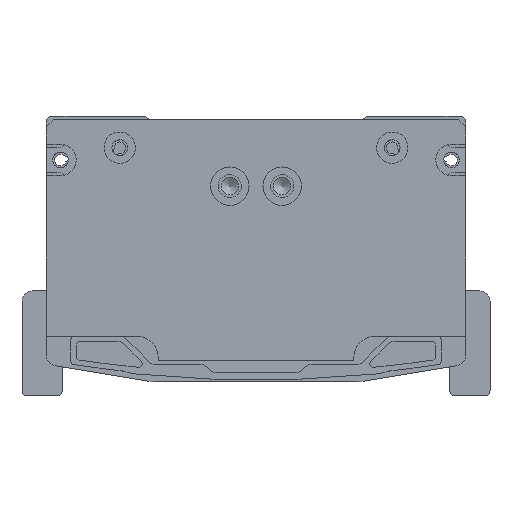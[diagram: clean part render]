
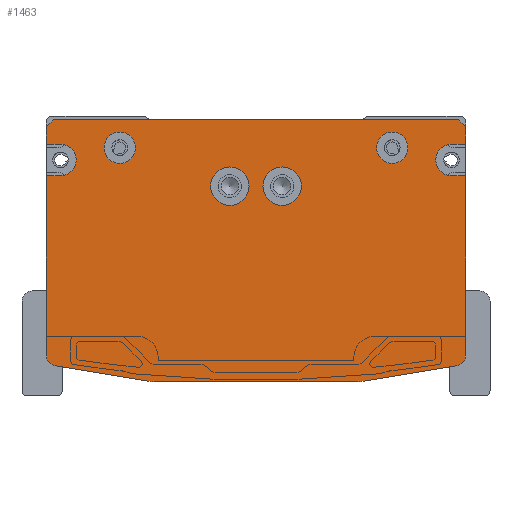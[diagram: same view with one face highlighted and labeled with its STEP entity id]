
A CAD part, front view. The second image highlights one B-rep face of the part: STEP entity #1463.
In plain terms, the highlighted planar face has unit normal (0, -1, 0).
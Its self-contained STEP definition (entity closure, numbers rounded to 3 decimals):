
#1463=ADVANCED_FACE('',(#2467,#2468,#2469,#2470,#2471),#2045,.F.);
#2045=PLANE('',#14650);
#2467=FACE_BOUND('',#3445,.T.);
#2468=FACE_BOUND('',#3446,.T.);
#2469=FACE_BOUND('',#3447,.T.);
#2470=FACE_BOUND('',#3448,.T.);
#2471=FACE_BOUND('',#3449,.T.);
#3445=EDGE_LOOP('',(#6782));
#3446=EDGE_LOOP('',(#6783));
#3447=EDGE_LOOP('',(#6784,#6785,#6786,#6787,#6788,#6789,#6790,#6791,#6792,
#6793,#6794,#6795,#6796,#6797,#6798,#6799,#6800,#6801,#6802,#6803));
#3448=EDGE_LOOP('',(#6804));
#3449=EDGE_LOOP('',(#6805));
#4433=CIRCLE('',#14551,5.5);
#4437=CIRCLE('',#14558,5.5);
#4440=CIRCLE('',#14564,4.5);
#4444=CIRCLE('',#14571,4.5);
#4451=CIRCLE('',#14589,4.5);
#4454=CIRCLE('',#14598,3.);
#4457=CIRCLE('',#14603,10.);
#4458=CIRCLE('',#14606,10.);
#4461=CIRCLE('',#14611,3.);
#4469=CIRCLE('',#14638,4.5);
#6782=ORIENTED_EDGE('',*,*,#11008,.T.);
#6783=ORIENTED_EDGE('',*,*,#11012,.T.);
#6784=ORIENTED_EDGE('',*,*,#11073,.T.);
#6785=ORIENTED_EDGE('',*,*,#11069,.F.);
#6786=ORIENTED_EDGE('',*,*,#11067,.F.);
#6787=ORIENTED_EDGE('',*,*,#11064,.F.);
#6788=ORIENTED_EDGE('',*,*,#11060,.T.);
#6789=ORIENTED_EDGE('',*,*,#11057,.T.);
#6790=ORIENTED_EDGE('',*,*,#10714,.F.);
#6791=ORIENTED_EDGE('',*,*,#11043,.T.);
#6792=ORIENTED_EDGE('',*,*,#11040,.T.);
#6793=ORIENTED_EDGE('',*,*,#11038,.F.);
#6794=ORIENTED_EDGE('',*,*,#10710,.F.);
#6795=ORIENTED_EDGE('',*,*,#11034,.T.);
#6796=ORIENTED_EDGE('',*,*,#10685,.F.);
#6797=ORIENTED_EDGE('',*,*,#11032,.T.);
#6798=ORIENTED_EDGE('',*,*,#10476,.F.);
#6799=ORIENTED_EDGE('',*,*,#11108,.T.);
#6800=ORIENTED_EDGE('',*,*,#11105,.T.);
#6801=ORIENTED_EDGE('',*,*,#11103,.F.);
#6802=ORIENTED_EDGE('',*,*,#10472,.F.);
#6803=ORIENTED_EDGE('',*,*,#11076,.T.);
#6804=ORIENTED_EDGE('',*,*,#11019,.F.);
#6805=ORIENTED_EDGE('',*,*,#11015,.F.);
#9028=VERTEX_POINT('',#20833);
#9029=VERTEX_POINT('',#20835);
#9032=VERTEX_POINT('',#20841);
#9033=VERTEX_POINT('',#20843);
#9140=VERTEX_POINT('',#21491);
#9141=VERTEX_POINT('',#21493);
#9156=VERTEX_POINT('',#21539);
#9157=VERTEX_POINT('',#21541);
#9160=VERTEX_POINT('',#21547);
#9161=VERTEX_POINT('',#21549);
#9360=VERTEX_POINT('',#22638);
#9364=VERTEX_POINT('',#22649);
#9367=VERTEX_POINT('',#22658);
#9370=VERTEX_POINT('',#22668);
#9378=VERTEX_POINT('',#22703);
#9380=VERTEX_POINT('',#22710);
#9391=VERTEX_POINT('',#22744);
#9393=VERTEX_POINT('',#22750);
#9396=VERTEX_POINT('',#22758);
#9398=VERTEX_POINT('',#22764);
#9399=VERTEX_POINT('',#22768);
#9402=VERTEX_POINT('',#22776);
#9414=VERTEX_POINT('',#22835);
#9416=VERTEX_POINT('',#22842);
#10472=EDGE_CURVE('',#9028,#9029,#12117,.T.);
#10476=EDGE_CURVE('',#9032,#9033,#12121,.T.);
#10685=EDGE_CURVE('',#9140,#9141,#12241,.T.);
#10710=EDGE_CURVE('',#9156,#9157,#12266,.T.);
#10714=EDGE_CURVE('',#9160,#9161,#12270,.T.);
#11008=EDGE_CURVE('',#9360,#9360,#4433,.T.);
#11012=EDGE_CURVE('',#9364,#9364,#4437,.T.);
#11015=EDGE_CURVE('',#9367,#9367,#4440,.T.);
#11019=EDGE_CURVE('',#9370,#9370,#4444,.T.);
#11032=EDGE_CURVE('',#9140,#9033,#12444,.T.);
#11034=EDGE_CURVE('',#9156,#9141,#12446,.T.);
#11038=EDGE_CURVE('',#9157,#9378,#12450,.T.);
#11040=EDGE_CURVE('',#9380,#9378,#4451,.T.);
#11043=EDGE_CURVE('',#9160,#9380,#12453,.T.);
#11057=EDGE_CURVE('',#9391,#9161,#4454,.T.);
#11060=EDGE_CURVE('',#9393,#9391,#12466,.T.);
#11064=EDGE_CURVE('',#9393,#9396,#4457,.T.);
#11067=EDGE_CURVE('',#9396,#9398,#12471,.T.);
#11069=EDGE_CURVE('',#9398,#9399,#4458,.T.);
#11073=EDGE_CURVE('',#9402,#9399,#12475,.T.);
#11076=EDGE_CURVE('',#9028,#9402,#4461,.T.);
#11103=EDGE_CURVE('',#9029,#9414,#12497,.T.);
#11105=EDGE_CURVE('',#9416,#9414,#4469,.T.);
#11108=EDGE_CURVE('',#9032,#9416,#12500,.T.);
#12117=LINE('',#20834,#13119);
#12121=LINE('',#20842,#13123);
#12241=LINE('',#21492,#13243);
#12266=LINE('',#21540,#13268);
#12270=LINE('',#21548,#13272);
#12444=LINE('',#22695,#13446);
#12446=LINE('',#22698,#13448);
#12450=LINE('',#22705,#13452);
#12453=LINE('',#22714,#13455);
#12466=LINE('',#22749,#13468);
#12471=LINE('',#22763,#13473);
#12475=LINE('',#22775,#13477);
#12497=LINE('',#22837,#13499);
#12500=LINE('',#22846,#13502);
#13119=VECTOR('',#16243,1.);
#13123=VECTOR('',#16247,1.);
#13243=VECTOR('',#16655,1.);
#13268=VECTOR('',#16694,1.);
#13272=VECTOR('',#16698,1.);
#13446=VECTOR('',#17458,1.);
#13448=VECTOR('',#17462,1.);
#13452=VECTOR('',#17468,1.);
#13455=VECTOR('',#17479,1.);
#13468=VECTOR('',#17512,1.);
#13473=VECTOR('',#17525,1.);
#13477=VECTOR('',#17537,1.);
#13499=VECTOR('',#17613,1.);
#13502=VECTOR('',#17624,1.);
#14551=AXIS2_PLACEMENT_3D('',#22637,#17383,#17384);
#14558=AXIS2_PLACEMENT_3D('',#22648,#17397,#17398);
#14564=AXIS2_PLACEMENT_3D('',#22657,#17409,#17410);
#14571=AXIS2_PLACEMENT_3D('',#22667,#17423,#17424);
#14589=AXIS2_PLACEMENT_3D('',#22709,#17473,#17474);
#14598=AXIS2_PLACEMENT_3D('',#22743,#17505,#17506);
#14603=AXIS2_PLACEMENT_3D('',#22757,#17519,#17520);
#14606=AXIS2_PLACEMENT_3D('',#22767,#17529,#17530);
#14611=AXIS2_PLACEMENT_3D('',#22780,#17543,#17544);
#14638=AXIS2_PLACEMENT_3D('',#22841,#17618,#17619);
#14650=AXIS2_PLACEMENT_3D('',#22863,#17649,#17650);
#16243=DIRECTION('',(0.,0.,1.));
#16247=DIRECTION('',(0.,0.,1.));
#16655=DIRECTION('',(1.,0.,0.));
#16694=DIRECTION('',(0.,0.,-1.));
#16698=DIRECTION('',(0.,0.,-1.));
#17383=DIRECTION('',(0.,1.,0.));
#17384=DIRECTION('',(1.,0.,0.));
#17397=DIRECTION('',(0.,1.,0.));
#17398=DIRECTION('',(1.,0.,0.));
#17409=DIRECTION('',(0.,-1.,0.));
#17410=DIRECTION('',(1.,0.,0.));
#17423=DIRECTION('',(0.,-1.,0.));
#17424=DIRECTION('',(1.,0.,0.));
#17458=DIRECTION('',(-0.707,0.,-0.707));
#17462=DIRECTION('',(-0.707,0.,0.707));
#17468=DIRECTION('',(-1.,0.,0.));
#17473=DIRECTION('',(0.,1.,0.));
#17474=DIRECTION('',(0.,0.,-1.));
#17479=DIRECTION('',(-1.,0.,0.));
#17505=DIRECTION('',(0.,-1.,0.));
#17506=DIRECTION('',(0.164,0.,-0.986));
#17512=DIRECTION('',(0.986,0.,0.164));
#17519=DIRECTION('',(0.,1.,0.));
#17520=DIRECTION('',(0.164,0.,-0.986));
#17525=DIRECTION('',(-1.,0.,0.));
#17529=DIRECTION('',(0.,1.,0.));
#17530=DIRECTION('',(0.,0.,-1.));
#17537=DIRECTION('',(0.986,0.,-0.164));
#17543=DIRECTION('',(0.,-1.,0.));
#17544=DIRECTION('',(-1.,0.,0.));
#17613=DIRECTION('',(1.,0.,0.));
#17618=DIRECTION('',(0.,1.,0.));
#17619=DIRECTION('',(0.,0.,1.));
#17624=DIRECTION('',(1.,0.,0.));
#17649=DIRECTION('',(0.,1.,0.));
#17650=DIRECTION('',(1.,0.,0.));
#20833=CARTESIAN_POINT('',(-60.,-412.,-69.459));
#20834=CARTESIAN_POINT('',(-60.,-412.,-69.459));
#20835=CARTESIAN_POINT('',(-60.,-412.,-18.));
#20841=CARTESIAN_POINT('',(-60.,-412.,-9.));
#20842=CARTESIAN_POINT('',(-60.,-412.,-9.));
#20843=CARTESIAN_POINT('',(-60.,-412.,-4.));
#21491=CARTESIAN_POINT('',(-58.,-412.,-2.));
#21492=CARTESIAN_POINT('',(-58.,-412.,-2.));
#21493=CARTESIAN_POINT('',(58.,-412.,-2.));
#21539=CARTESIAN_POINT('',(60.,-412.,-4.));
#21540=CARTESIAN_POINT('',(60.,-412.,-4.));
#21541=CARTESIAN_POINT('',(60.,-412.,-9.));
#21547=CARTESIAN_POINT('',(60.,-412.,-18.));
#21548=CARTESIAN_POINT('',(60.,-412.,-18.));
#21549=CARTESIAN_POINT('',(60.,-412.,-69.459));
#22637=CARTESIAN_POINT('',(7.5,-412.,-21.));
#22638=CARTESIAN_POINT('',(13.,-412.,-21.));
#22648=CARTESIAN_POINT('',(-7.5,-412.,-21.));
#22649=CARTESIAN_POINT('',(-2.,-412.,-21.));
#22657=CARTESIAN_POINT('',(-39.,-412.,-10.));
#22658=CARTESIAN_POINT('',(-34.5,-412.,-10.));
#22667=CARTESIAN_POINT('',(39.,-412.,-10.));
#22668=CARTESIAN_POINT('',(43.5,-412.,-10.));
#22695=CARTESIAN_POINT('',(-58.,-412.,-2.));
#22698=CARTESIAN_POINT('',(60.,-412.,-4.));
#22703=CARTESIAN_POINT('',(56.,-412.,-9.));
#22705=CARTESIAN_POINT('',(60.,-412.,-9.));
#22709=CARTESIAN_POINT('',(56.,-412.,-13.5));
#22710=CARTESIAN_POINT('',(56.,-412.,-18.));
#22714=CARTESIAN_POINT('',(60.,-412.,-18.));
#22743=CARTESIAN_POINT('',(57.,-412.,-69.459));
#22744=CARTESIAN_POINT('',(57.493,-412.,-72.418));
#22749=CARTESIAN_POINT('',(30.816,-412.,-76.864));
#22750=CARTESIAN_POINT('',(30.816,-412.,-76.864));
#22757=CARTESIAN_POINT('',(29.172,-412.,-67.));
#22758=CARTESIAN_POINT('',(29.172,-412.,-77.));
#22763=CARTESIAN_POINT('',(29.172,-412.,-77.));
#22764=CARTESIAN_POINT('',(-29.172,-412.,-77.));
#22767=CARTESIAN_POINT('',(-29.172,-412.,-67.));
#22768=CARTESIAN_POINT('',(-30.816,-412.,-76.864));
#22775=CARTESIAN_POINT('',(-57.493,-412.,-72.418));
#22776=CARTESIAN_POINT('',(-57.493,-412.,-72.418));
#22780=CARTESIAN_POINT('',(-57.,-412.,-69.459));
#22835=CARTESIAN_POINT('',(-56.,-412.,-18.));
#22837=CARTESIAN_POINT('',(-60.,-412.,-18.));
#22841=CARTESIAN_POINT('',(-56.,-412.,-13.5));
#22842=CARTESIAN_POINT('',(-56.,-412.,-9.));
#22846=CARTESIAN_POINT('',(-60.,-412.,-9.));
#22863=CARTESIAN_POINT('',(0.,-412.,-2.));
